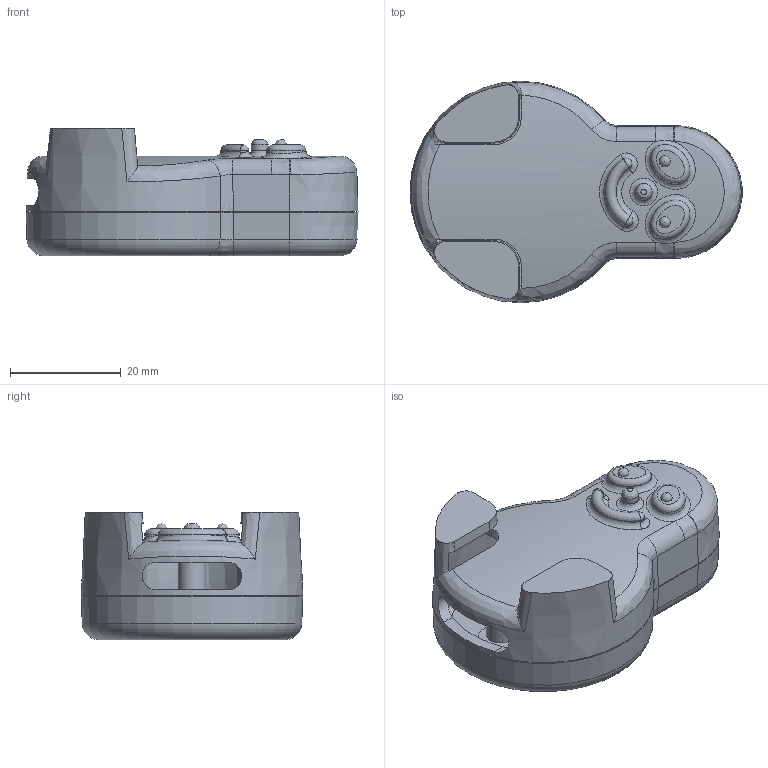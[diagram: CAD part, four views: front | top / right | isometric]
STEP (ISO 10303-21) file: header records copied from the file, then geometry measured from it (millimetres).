
FILE_DESCRIPTION(/* description */ (''),/* implementation_level */ '2;1');
FILE_NAME(/* name */ 'CP10.stp',/* time_stamp */ '2019-05-02T02:27:25+08:00',/* author */ (''),/* organization */ (''),/* preprocessor_version */ 'ST-DEVELOPER v16',/* originating_system */ 'SIEMENS PLM Software NX 10.0',/* authorisation */ '');
FILE_SCHEMA (('AUTOMOTIVE_DESIGN { 1 0 10303 214 3 1 1 1 }'));
Length unit declared in the file: millimetre
Products named in the file (3): CP10_id6_x_t; CP10_id10_x_t; CP10_x_t
Assembly tree (2 placements, depth 2):
  CP10_x_t
    CP10_id10_x_t
    CP10_id6_x_t
Bounding box: 59.96 x 40 x 23 mm (x, y, z)
Volume: 11037.5 mm3; surface area: 12536 mm2
Topology: 2 solids, 2 shells, 158 faces, 399 edges, 253 vertices
Faces by surface type: plane 45, bspline 43, cylinder 41, cone 12, extrusion 8, torus 5, sphere 4
Full cylindrical faces by diameter (mm): 2.5 x4, 3 x1, 5 x2, 6 x2, 8 x2
Entity records: 6961 total; most frequent: CARTESIAN_POINT 3659, ORIENTED_EDGE 718, DIRECTION 546, EDGE_CURVE 359, VERTEX_POINT 237, AXIS2_PLACEMENT_3D 221, EDGE_LOOP 202, B_SPLINE_CURVE_WITH_KNOTS 160
